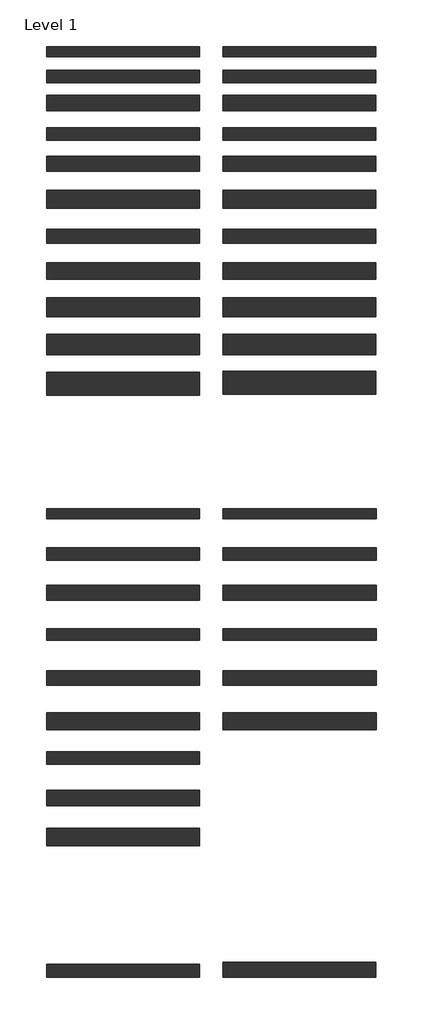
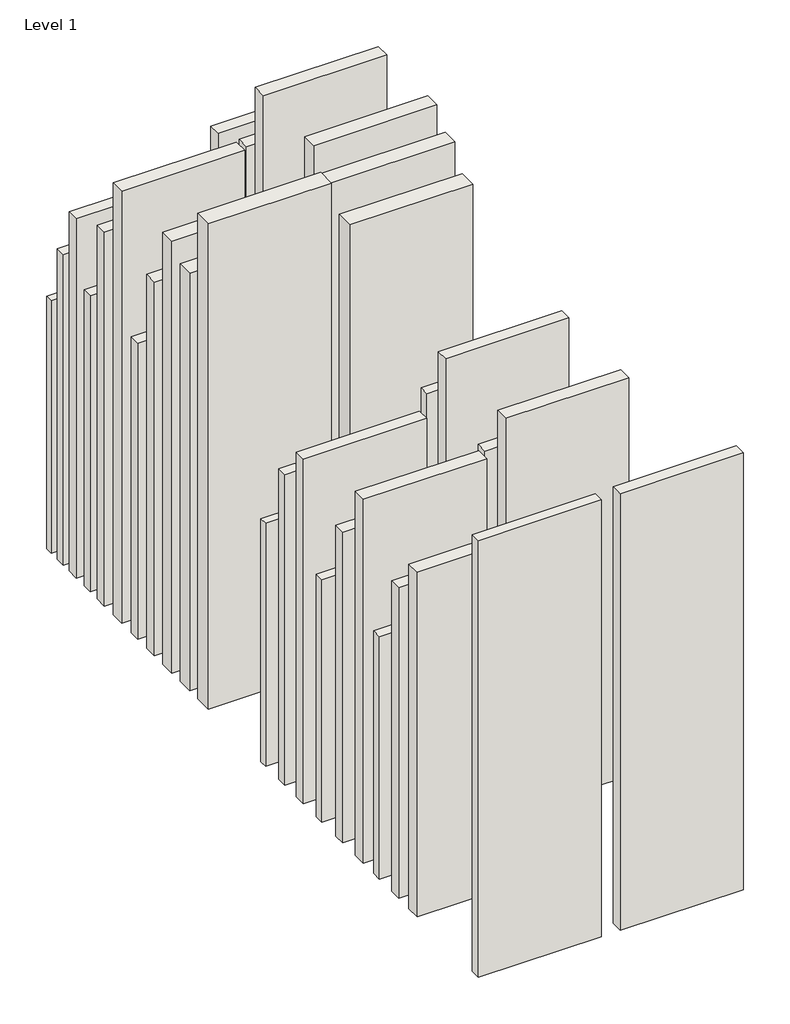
# One storey: 39 walls.
"""IFC4 building model written with IfcOpenShell, lengths in millimetres."""

from ifc_helpers import new_model, si_unit, origin, origin_with_axes, place, context, project, spatial, polyline, outline, extrude, element, save

model = new_model("IFC4")

# Units and contexts
model_context = context("Model", 3, world=origin())
ifc_project = project(units=[si_unit("LENGTHUNIT", "METRE", prefix="MILLI")], contexts=[model_context])

# Site, building, storey
site = spatial("IfcSite", under=ifc_project)
building = spatial("IfcBuilding", under=site)
storey = spatial("IfcBuildingStorey", under=building, Name="Level 1", Elevation=0.0)

# Walls
placement = place(None, origin())
element("IfcWall", 1, ObjectType="Tabique Simple – Placo Fire 78/600 con LM Isover - EI 60", at=placement, inside=storey, context=model_context, shape_type="SweptSolid", body=[
    extrude(outline(polyline([(-4644.8369443, -1469.0445576), (-5844.8369443, -1469.0445576), (-5844.8369443, -1391.0445576), (-4644.8369443, -1391.0445576), (-4644.8369443, -1469.0445576)])), origin_with_axes(), (0.0, 0.0, 1.0), 2600.0),
])
element("IfcWall", 2, ObjectType="Tabique Simple – Placo Fire 78/400 con LM Isover - EI 60", at=placement, inside=storey, context=model_context, shape_type="SweptSolid", body=[
    extrude(outline(polyline([(-3262.3743746, -1469.0445576), (-4462.3743746, -1469.0445576), (-4462.3743746, -1391.0445576), (-3262.3743746, -1391.0445576), (-3262.3743746, -1469.0445576)])), origin_with_axes(), (0.0, 0.0, 1.0), 2800.0),
])
element("IfcWall", 3, ObjectType="Tabique Simple –  Placo® 100/600 PPF 15 + 70 (LM) + PPF 15 con LM Isover Arena APTA - EI 60", at=placement, inside=storey, context=model_context, shape_type="SweptSolid", body=[
    extrude(outline(polyline([(-4644.8369443, -1675.5442564), (-5844.8369443, -1675.5442564), (-5844.8369443, -1575.5442564), (-4644.8369443, -1575.5442564), (-4644.8369443, -1675.5442564)])), origin_with_axes(), (0.0, 0.0, 1.0), 3200.0),
])
element("IfcWall", 4, ObjectType="Tabique Simple – Placo® 100/400 PPF 15 + 70 (LM) + PPF 15 con LM Isover Arena APTA - EI 60", at=placement, inside=storey, context=model_context, shape_type="SweptSolid", body=[
    extrude(outline(polyline([(-3262.3743746, -1675.5442564), (-4462.3743746, -1675.5442564), (-4462.3743746, -1575.5442564), (-3262.3743746, -1575.5442564), (-3262.3743746, -1675.5442564)])), origin_with_axes(), (0.0, 0.0, 1.0), 3550.0),
])
element("IfcWall", 5, ObjectType="Tabique Simple – Placo® 120/600 PPF 15 + 90 (LM) + PPF 15 con LM Isover Arena APTA - EI 60", at=placement, inside=storey, context=model_context, shape_type="SweptSolid", body=[
    extrude(outline(polyline([(-4644.8369443, -1892.0439551), (-5844.8369443, -1892.0439551), (-5844.8369443, -1772.0439551), (-4644.8369443, -1772.0439551), (-4644.8369443, -1892.0439551)])), origin_with_axes(), (0.0, 0.0, 1.0), 3700.0),
])
element("IfcWall", 6, ObjectType="Tabique Simple – Placo® 120/400 PPF 15 + 90 (LM) + PPF 15 con LM Isover Arena APTA - EI 60", at=placement, inside=storey, context=model_context, shape_type="SweptSolid", body=[
    extrude(outline(polyline([(-3262.3743746, -1892.0439551), (-4462.3743746, -1892.0439551), (-4462.3743746, -1772.0439551), (-3262.3743746, -1772.0439551), (-3262.3743746, -1892.0439551)])), origin_with_axes(), (0.0, 0.0, 1.0), 4100.0),
])
element("IfcWall", 7, ObjectType="Tabique Simple – Placo® 98/600 2xPPF 13 + 48 (LM) + 2xPPF 13 con LM Isover Arena APTA - EI 120", at=placement, inside=storey, context=model_context, shape_type="SweptSolid", body=[
    extrude(outline(polyline([(-4644.8369443, -2124.5442564), (-5844.8369443, -2124.5442564), (-5844.8369443, -2026.5442564), (-4644.8369443, -2026.5442564), (-4644.8369443, -2124.5442564)])), origin_with_axes(), (0.0, 0.0, 1.0), 3050.0),
])
element("IfcWall", 8, ObjectType="Tabique Simple – Placo® 98/400 2xPPF 13 + 48 (LM) + 2xPPF 13 con LM Isover Arena APTA - EI 120", at=placement, inside=storey, context=model_context, shape_type="SweptSolid", body=[
    extrude(outline(polyline([(-3262.3743746, -2124.5442564), (-4462.3743746, -2124.5442564), (-4462.3743746, -2026.5442564), (-3262.3743746, -2026.5442564), (-3262.3743746, -2124.5442564)])), origin_with_axes(), (0.0, 0.0, 1.0), 3350.0),
])
element("IfcWall", 9, ObjectType="Tabique Simple – Placo® 120/600 2xPPF 13 + 70 (LM) + 2xPPF 13 con LM Isover Arena APTA - EI 120", at=placement, inside=storey, context=model_context, shape_type="SweptSolid", body=[
    extrude(outline(polyline([(-4644.8369443, -2368.0445576), (-5844.8369443, -2368.0445576), (-5844.8369443, -2248.0445576), (-4644.8369443, -2248.0445576), (-4644.8369443, -2368.0445576)])), origin_with_axes(), (0.0, 0.0, 1.0), 3850.0),
])
element("IfcWall", 10, ObjectType="Tabique Simple – Placo® 120/400 2xPPF 13 + 70 (LM) + 2xPPF 13 con LM Isover Arena APTA - EI 120", at=placement, inside=storey, context=model_context, shape_type="SweptSolid", body=[
    extrude(outline(polyline([(-3262.3743746, -2368.0445576), (-4462.3743746, -2368.0445576), (-4462.3743746, -2248.0445576), (-3262.3743746, -2248.0445576), (-3262.3743746, -2368.0445576)])), origin_with_axes(), (0.0, 0.0, 1.0), 4250.0),
])
element("IfcWall", 11, ObjectType="Tabique Simple – Placo® 140/600 2xPPF 13 + 90 (LM) + 2xPPF 13 con LM Isover Arena APTA - EI 120", at=placement, inside=storey, context=model_context, shape_type="SweptSolid", body=[
    extrude(outline(polyline([(-4644.8369443, -2656.5442564), (-5844.8369443, -2656.5442564), (-5844.8369443, -2516.5442564), (-4644.8369443, -2516.5442564), (-4644.8369443, -2656.5442564)])), origin_with_axes(), (0.0, 0.0, 1.0), 4450.0),
])
element("IfcWall", 12, ObjectType="Tabique Simple – Placo® 140/400 2xPPF 13 + 90 (LM) + 2xPPF 13 con LM Isover Arena APTA - EI 120", at=placement, inside=storey, context=model_context, shape_type="SweptSolid", body=[
    extrude(outline(polyline([(-3262.3743746, -2656.5442564), (-4462.3743746, -2656.5442564), (-4462.3743746, -2516.5442564), (-3262.3743746, -2516.5442564), (-3262.3743746, -2656.5442564)])), origin_with_axes(), (0.0, 0.0, 1.0), 4950.0),
])
element("IfcWall", 13, ObjectType="Tabique Simple – Placo® 108/600 2xPPF 15 + 48 (LM) + 2xPPF 15 con LM Isover Arena APTA - EI 120", at=placement, inside=storey, context=model_context, shape_type="SweptSolid", body=[
    extrude(outline(polyline([(-4644.8369443, -2929.0439551), (-5844.8369443, -2929.0439551), (-5844.8369443, -2821.0439551), (-4644.8369443, -2821.0439551), (-4644.8369443, -2929.0439551)])), origin_with_axes(), (0.0, 0.0, 1.0), 3050.0),
])
element("IfcWall", 14, ObjectType="Tabique Simple – Placo® 108/400 2xPPF 15 + 48 (LM) + 2xPPF 15 con LM Isover Arena APTA - EI 120", at=placement, inside=storey, context=model_context, shape_type="SweptSolid", body=[
    extrude(outline(polyline([(-3262.3743746, -2929.0439551), (-4462.3743746, -2929.0439551), (-4462.3743746, -2821.0439551), (-3262.3743746, -2821.0439551), (-3262.3743746, -2929.0439551)])), origin_with_axes(), (0.0, 0.0, 1.0), 3350.0),
])
element("IfcWall", 15, ObjectType="Tabique Simple – Placo® 130/600 2xPPF 15 + 70 (LM) + 2xPPF 15 con LM Isover Arena APTA - EI 120", at=placement, inside=storey, context=model_context, shape_type="SweptSolid", body=[
    extrude(outline(polyline([(-4644.8369443, -3212.5436538), (-5844.8369443, -3212.5436538), (-5844.8369443, -3082.5436538), (-4644.8369443, -3082.5436538), (-4644.8369443, -3212.5436538)])), origin_with_axes(), (0.0, 0.0, 1.0), 3850.0),
])
element("IfcWall", 16, ObjectType="Tabique Simple – Placo® 130/400 2xPPF 15 + 70 (LM) + 2xPPF 15 con LM Isover Arena APTA - EI 120", at=placement, inside=storey, context=model_context, shape_type="SweptSolid", body=[
    extrude(outline(polyline([(-3262.3743746, -3212.5436538), (-4462.3743746, -3212.5436538), (-4462.3743746, -3082.5436538), (-3262.3743746, -3082.5436538), (-3262.3743746, -3212.5436538)])), origin_with_axes(), (0.0, 0.0, 1.0), 4250.0),
])
element("IfcWall", 17, ObjectType="Tabique Simple – Placo® 150/600 2xPPF 15 + 90 (LM) + 2xPPF 15 con LM Isover Arena APTA - EI 120", at=placement, inside=storey, context=model_context, shape_type="SweptSolid", body=[
    extrude(outline(polyline([(-4644.8369443, -3506.0433526), (-5844.8369443, -3506.0433526), (-5844.8369443, -3356.0433526), (-4644.8369443, -3356.0433526), (-4644.8369443, -3506.0433526)])), origin_with_axes(), (0.0, 0.0, 1.0), 4450.0),
])
element("IfcWall", 18, ObjectType="Tabique Simple – Placo® 150/400 2xPPF 15 + 90 (LM) + 2xPPF 15 con LM Isover Arena APTA - EI 120", at=placement, inside=storey, context=model_context, shape_type="SweptSolid", body=[
    extrude(outline(polyline([(-3262.3743746, -3506.0433526), (-4462.3743746, -3506.0433526), (-4462.3743746, -3356.0433526), (-3262.3743746, -3356.0433526), (-3262.3743746, -3506.0433526)])), origin_with_axes(), (0.0, 0.0, 1.0), 4950.0),
])
element("IfcWall", 19, ObjectType="Tabique Simple – Tabique Simple – Placo® 160/600 3xPPF 15 + 70 (LM) + 3xPPF 15 con LM Isover Arena APTA - EI 240", at=placement, inside=storey, context=model_context, shape_type="SweptSolid", body=[
    extrude(outline(polyline([(-4644.8369443, -3804.5430513), (-5844.8369443, -3804.5430513), (-5844.8369443, -3644.5430513), (-4644.8369443, -3644.5430513), (-4644.8369443, -3804.5430513)])), origin_with_axes(), (0.0, 0.0, 1.0), 4300.0),
])
element("IfcWall", 20, ObjectType="Tabique Simple – Tabique Simple – Placo® 160/400 3xPPF 15 + 70 (LM) + 3xPPF 15 con LM Isover Arena APTA - EI 240", at=placement, inside=storey, context=model_context, shape_type="SweptSolid", body=[
    extrude(outline(polyline([(-3262.3743746, -3804.5430513), (-4462.3743746, -3804.5430513), (-4462.3743746, -3644.5430513), (-3262.3743746, -3644.5430513), (-3262.3743746, -3804.5430513)])), origin_with_axes(), (0.0, 0.0, 1.0), 4750.0),
])
element("IfcWall", 21, ObjectType="Tabique Simple – Tabique Simple – Placo® 180/600 3xPPF 15 + 90 (LM) + 3xPPF 15 con LM Isover Arena APTA - EI 240", at=placement, inside=storey, context=model_context, shape_type="SweptSolid", body=[
    extrude(outline(polyline([(-4644.8369443, -4120.2939551), (-5844.8369443, -4120.2939551), (-5844.8369443, -3940.2939551), (-4644.8369443, -3940.2939551), (-4644.8369443, -4120.2939551)])), origin_with_axes(), (0.0, 0.0, 1.0), 5000.0),
])
element("IfcWall", 22, ObjectType="Tabique Simple – Tabique Simple – Placo® 180/400 3xPPF 15 +90 (LM) + 3xPPF 15 con LM Isover Arena APTA - EI 240", at=placement, inside=storey, context=model_context, shape_type="SweptSolid", body=[
    extrude(outline(polyline([(-3262.3743746, -4113.04275), (-4462.3743746, -4113.04275), (-4462.3743746, -3933.04275), (-3262.3743746, -3933.04275), (-3262.3743746, -4113.04275)])), origin_with_axes(), (0.0, 0.0, 1.0), 4500.0),
])
element("IfcWall", 23, ObjectType="Tabique Simple – Placo® Shaftwall con LM Isover - EI 120", at=placement, inside=storey, context=model_context, shape_type="SweptSolid", body=[
    extrude(outline(polyline([(-4644.8369443, -8678.0448589), (-5844.8369443, -8678.0448589), (-5844.8369443, -8574.0448589), (-4644.8369443, -8574.0448589), (-4644.8369443, -8678.0448589)])), origin_with_axes(), (0.0, 0.0, 1.0), 4500.0),
])
element("IfcWall", 24, ObjectType="Tabique Simple – Placo Fire Shaftwall con LM Isover - EI 180", at=placement, inside=storey, context=model_context, shape_type="SweptSolid", body=[
    extrude(outline(polyline([(-3262.3743746, -8678.0448589), (-4462.3743746, -8678.0448589), (-4462.3743746, -8559.0448589), (-3262.3743746, -8559.0448589), (-3262.3743746, -8678.0448589)])), origin_with_axes(), (0.0, 0.0, 1.0), 4500.0),
])
element("IfcWall", 25, ObjectType="Trasdosado – Placo® 78/600 - EI 60", at=placement, inside=storey, context=model_context, shape_type="SweptSolid", body=[
    extrude(outline(polyline([(-4644.8369443, -5087.1458867), (-5844.8369443, -5087.1458867), (-5844.8369443, -5009.1458867), (-4644.8369443, -5009.1458867), (-4644.8369443, -5087.1458867)])), origin_with_axes(), (0.0, 0.0, 1.0), 2500.0),
])
element("IfcWall", 26, ObjectType="Trasdosado – Placo® 78/400 - EI 60", at=placement, inside=storey, context=model_context, shape_type="SweptSolid", body=[
    extrude(outline(polyline([(-3259.8170422, -5087.1458867), (-4459.8170422, -5087.1458867), (-4459.8170422, -5009.1458867), (-3259.8170422, -5009.1458867), (-3259.8170422, -5087.1458867)])), origin_with_axes(), (0.0, 0.0, 1.0), 2700.0),
])
element("IfcWall", 27, ObjectType="Trasdosado – Placo® 93/600 - EI 90", at=placement, inside=storey, context=model_context, shape_type="SweptSolid", body=[
    extrude(outline(polyline([(-4644.8369443, -6039.9489702), (-5844.8369443, -6039.9489702), (-5844.8369443, -5946.9489702), (-4644.8369443, -5946.9489702), (-4644.8369443, -6039.9489702)])), origin_with_axes(), (0.0, 0.0, 1.0), 2500.0),
])
element("IfcWall", 28, ObjectType="Trasdosado – Placo® 93/400 - EI 90", at=placement, inside=storey, context=model_context, shape_type="SweptSolid", body=[
    extrude(outline(polyline([(-3259.8170422, -6039.9489702), (-4459.8170422, -6039.9489702), (-4459.8170422, -5946.9489702), (-3259.8170422, -5946.9489702), (-3259.8170422, -6039.9489702)])), origin_with_axes(), (0.0, 0.0, 1.0), 2700.0),
])
element("IfcWall", 29, ObjectType="Trasdosado – Placo® 100/600 - EI 60", at=placement, inside=storey, context=model_context, shape_type="SweptSolid", body=[
    extrude(outline(polyline([(-4644.8369443, -5413.2469145), (-5844.8369443, -5413.2469145), (-5844.8369443, -5313.2469145), (-4644.8369443, -5313.2469145), (-4644.8369443, -5413.2469145)])), origin_with_axes(), (0.0, 0.0, 1.0), 3200.0),
])
element("IfcWall", 30, ObjectType="Trasdosado – Placo® 100/400 - EI 60", at=placement, inside=storey, context=model_context, shape_type="SweptSolid", body=[
    extrude(outline(polyline([(-3259.8170422, -5413.2469145), (-4459.8170422, -5413.2469145), (-4459.8170422, -5313.2469145), (-3259.8170422, -5313.2469145), (-3259.8170422, -5413.2469145)])), origin_with_axes(), (0.0, 0.0, 1.0), 3550.0),
])
element("IfcWall", 31, ObjectType="Trasdosado – Placo® 120/600 - EI 60", at=placement, inside=storey, context=model_context, shape_type="SweptSolid", body=[
    extrude(outline(polyline([(-4644.8369443, -5727.3479424), (-5844.8369443, -5727.3479424), (-5844.8369443, -5607.3479424), (-4644.8369443, -5607.3479424), (-4644.8369443, -5727.3479424)])), origin_with_axes(), (0.0, 0.0, 1.0), 3550.0),
])
element("IfcWall", 32, ObjectType="Trasdosado – Placo® 120/400 - EI 60", at=placement, inside=storey, context=model_context, shape_type="SweptSolid", body=[
    extrude(outline(polyline([(-3259.8170422, -5727.3479424), (-4459.8170422, -5727.3479424), (-4459.8170422, -5607.3479424), (-3259.8170422, -5607.3479424), (-3259.8170422, -5727.3479424)])), origin_with_axes(), (0.0, 0.0, 1.0), 4100.0),
])
element("IfcWall", 33, ObjectType="Trasdosado – Placo® 100/600 - EI 90", at=placement, inside=storey, context=model_context, shape_type="SweptSolid", body=[
    extrude(outline(polyline([(-4644.8369443, -6390.549998), (-5844.8369443, -6390.549998), (-5844.8369443, -6275.549998), (-4644.8369443, -6275.549998), (-4644.8369443, -6390.549998)])), origin_with_axes(), (0.0, 0.0, 1.0), 3200.0),
])
element("IfcWall", 34, ObjectType="Trasdosado – Placo® 100/400 - EI 90", at=placement, inside=storey, context=model_context, shape_type="SweptSolid", body=[
    extrude(outline(polyline([(-3259.8170422, -6390.549998), (-4459.8170422, -6390.549998), (-4459.8170422, -6275.549998), (-3259.8170422, -6275.549998), (-3259.8170422, -6390.549998)])), origin_with_axes(), (0.0, 0.0, 1.0), 3550.0),
])
element("IfcWall", 35, ObjectType="Trasdosado – Placo® 120/600 - EI 90", at=placement, inside=storey, context=model_context, shape_type="SweptSolid", body=[
    extrude(outline(polyline([(-4644.8369443, -6740.1510259), (-5844.8369443, -6740.1510259), (-5844.8369443, -6605.1510259), (-4644.8369443, -6605.1510259), (-4644.8369443, -6740.1510259)])), origin_with_axes(), (0.0, 0.0, 1.0), 3750.0),
])
element("IfcWall", 36, ObjectType="Trasdosado – Placo® 120/400 - EI 90", at=placement, inside=storey, context=model_context, shape_type="SweptSolid", body=[
    extrude(outline(polyline([(-3259.8170422, -6740.1510259), (-4459.8170422, -6740.1510259), (-4459.8170422, -6605.1510259), (-3259.8170422, -6605.1510259), (-3259.8170422, -6740.1510259)])), origin_with_axes(), (0.0, 0.0, 1.0), 4100.0),
])
element("IfcWall", 37, ObjectType="Trasdosado – Placo® 98/450 - EI 120", at=placement, inside=storey, context=model_context, shape_type="SweptSolid", body=[
    extrude(outline(polyline([(-4644.8369443, -7008.2520537), (-5844.8369443, -7008.2520537), (-5844.8369443, -6910.2520537), (-4644.8369443, -6910.2520537), (-4644.8369443, -7008.2520537)])), origin_with_axes(), (0.0, 0.0, 1.0), 2500.0),
])
element("IfcWall", 38, ObjectType="Trasdosado – Placo® 120/450 - EI 120", at=placement, inside=storey, context=model_context, shape_type="SweptSolid", body=[
    extrude(outline(polyline([(-4644.8369443, -7334.3530815), (-5844.8369443, -7334.3530815), (-5844.8369443, -7214.3530815), (-4644.8369443, -7214.3530815), (-4644.8369443, -7334.3530815)])), origin_with_axes(), (0.0, 0.0, 1.0), 3200.0),
])
element("IfcWall", 39, ObjectType="Trasdosado – Placo® 140/450 - EI 120", at=placement, inside=storey, context=model_context, shape_type="SweptSolid", body=[
    extrude(outline(polyline([(-4644.8369443, -7648.4541093), (-5844.8369443, -7648.4541093), (-5844.8369443, -7508.4541093), (-4644.8369443, -7508.4541093), (-4644.8369443, -7648.4541093)])), origin_with_axes(), (0.0, 0.0, 1.0), 3550.0),
])

save(model, "model.ifc")
